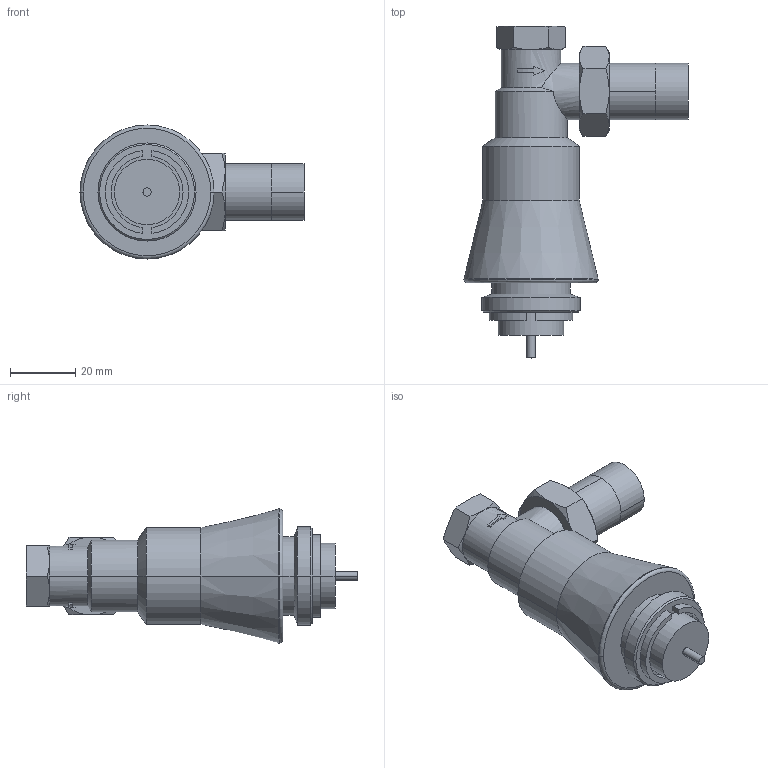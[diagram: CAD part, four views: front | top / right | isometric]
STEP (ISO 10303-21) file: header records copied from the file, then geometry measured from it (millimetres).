
FILE_DESCRIPTION((''),'2;1');
FILE_NAME('000065.stp','2006-09-29T17:14:41',(''),(''),'Mechanical Desktop 2006','Mechanical Desktop 2006',', , ');
FILE_SCHEMA(('AUTOMOTIVE_DESIGN { 1 2 10303 214 0 1 1 1 }'));
Length unit declared in the file: millimetre
Products named in the file (1): Product
Bounding box: 68.5 x 101.5 x 41 mm (x, y, z)
Volume: 62146.9 mm3; surface area: 18864.4 mm2
Topology: 12 solids, 12 shells, 117 faces, 270 edges, 179 vertices
Faces by surface type: bspline 59, cylinder 24, plane 20, cone 10, torus 4
Entity records: 3763 total; most frequent: CARTESIAN_POINT 1288, ORIENTED_EDGE 540, DIRECTION 449, EDGE_CURVE 270, VERTEX_POINT 179, AXIS2_PLACEMENT_3D 172, EDGE_LOOP 123, FACE_OUTER_BOUND 117
